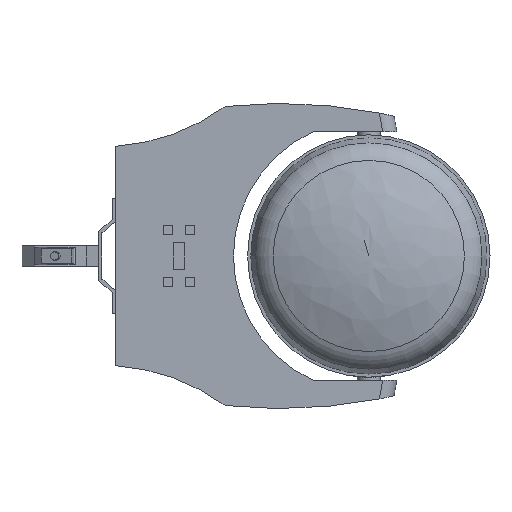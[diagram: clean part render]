
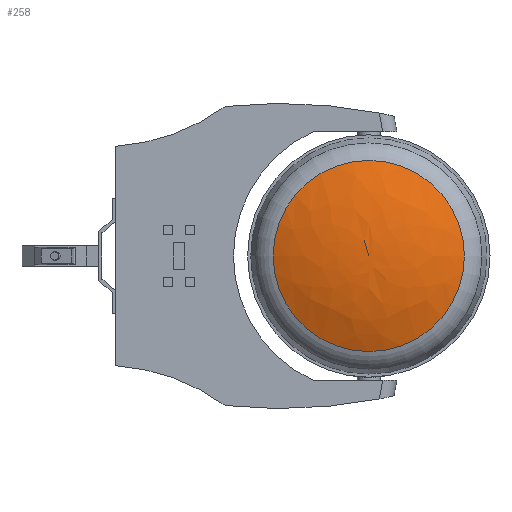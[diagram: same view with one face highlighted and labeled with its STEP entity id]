
A CAD part, front view. The second image highlights one B-rep face of the part: STEP entity #258.
In plain terms, the highlighted free-form (B-spline) face has degree [3, 3] with [4, 7] control points.
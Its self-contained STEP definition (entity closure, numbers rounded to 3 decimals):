
#258 = ADVANCED_FACE( '', ( #557, #558 ), #559, .T. );
#557 = FACE_OUTER_BOUND( '', #951, .T. );
#558 = FACE_BOUND( '', #952, .T. );
#559 = ( BOUNDED_SURFACE(  )B_SPLINE_SURFACE( 3, 3, ( ( #955, #956, #957, #958, #959, #960, #961 ), ( #962, #963, #964, #965, #966, #967, #968 ), ( #969, #970, #971, #972, #973, #974, #975 ), ( #976, #977, #978, #979, #980, #981, #982 ) ), .UNSPECIFIED., .F., .T., .F. )B_SPLINE_SURFACE_WITH_KNOTS( ( 4, 4 ), ( 4, 3, 4 ), ( 0., 6.283 ), ( -1.596, -1.386, -1.175 ), .UNSPECIFIED. )GEOMETRIC_REPRESENTATION_ITEM(  )RATIONAL_B_SPLINE_SURFACE( ( ( 1., 0.333, 0.333, 1., 0.333, 0.333, 1. ), ( 0.985, 0.328, 0.328, 0.985, 0.328, 0.328, 0.985 ), ( 0.985, 0.328, 0.328, 0.985, 0.328, 0.328, 0.985 ), ( 1., 0.333, 0.333, 1., 0.333, 0.333, 1. ) ) )REPRESENTATION_ITEM( '' )SURFACE(  ) );
#951 = EDGE_LOOP( '', ( #1440 ) );
#952 = VERTEX_LOOP( '', #1441 );
#955 = CARTESIAN_POINT( '', ( 253., 72.197, -137.709 ) );
#956 = CARTESIAN_POINT( '', ( 528.418, 72.197, -137.709 ) );
#957 = CARTESIAN_POINT( '', ( 528.418, 72.197, 137.709 ) );
#958 = CARTESIAN_POINT( '', ( 253., 72.197, 137.709 ) );
#959 = CARTESIAN_POINT( '', ( -22.418, 72.197, 137.709 ) );
#960 = CARTESIAN_POINT( '', ( -22.418, 72.197, -137.709 ) );
#961 = CARTESIAN_POINT( '', ( 253., 72.197, -137.709 ) );
#962 = CARTESIAN_POINT( '', ( 253., 90.449, -93.968 ) );
#963 = CARTESIAN_POINT( '', ( 440.936, 90.449, -93.968 ) );
#964 = CARTESIAN_POINT( '', ( 440.936, 90.449, 93.968 ) );
#965 = CARTESIAN_POINT( '', ( 253., 90.449, 93.968 ) );
#966 = CARTESIAN_POINT( '', ( 65.064, 90.449, 93.968 ) );
#967 = CARTESIAN_POINT( '', ( 65.064, 90.449, -93.968 ) );
#968 = CARTESIAN_POINT( '', ( 253., 90.449, -93.968 ) );
#969 = CARTESIAN_POINT( '', ( 253., 99.177, -47.382 ) );
#970 = CARTESIAN_POINT( '', ( 347.764, 99.177, -47.382 ) );
#971 = CARTESIAN_POINT( '', ( 347.764, 99.177, 47.382 ) );
#972 = CARTESIAN_POINT( '', ( 253., 99.177, 47.382 ) );
#973 = CARTESIAN_POINT( '', ( 158.236, 99.177, 47.382 ) );
#974 = CARTESIAN_POINT( '', ( 158.236, 99.177, -47.382 ) );
#975 = CARTESIAN_POINT( '', ( 253., 99.177, -47.382 ) );
#976 = CARTESIAN_POINT( '', ( 253., 97.997, 0. ) );
#977 = CARTESIAN_POINT( '', ( 253., 97.997, 0. ) );
#978 = CARTESIAN_POINT( '', ( 253., 97.997, 0. ) );
#979 = CARTESIAN_POINT( '', ( 253., 97.997, 0. ) );
#980 = CARTESIAN_POINT( '', ( 253., 97.997, 0. ) );
#981 = CARTESIAN_POINT( '', ( 253., 97.997, 0. ) );
#982 = CARTESIAN_POINT( '', ( 253., 97.997, 0. ) );
#1440 = ORIENTED_EDGE( '', *, *, #2302, .F. );
#1441 = VERTEX_POINT( '', #2303 );
#2302 = EDGE_CURVE( '', #2719, #2719, #2720, .T. );
#2303 = CARTESIAN_POINT( '', ( 253., 97.997, 0. ) );
#2719 = VERTEX_POINT( '', #3321 );
#2720 = CIRCLE( '', #3322, 137.709 );
#3321 = CARTESIAN_POINT( '', ( 253., 72.197, -137.709 ) );
#3322 = AXIS2_PLACEMENT_3D( '', #4082, #4083, #4084 );
#4082 = CARTESIAN_POINT( '', ( 253., 72.197, 0. ) );
#4083 = DIRECTION( '', ( 0., -1., 0. ) );
#4084 = DIRECTION( '', ( 0., 0., -1. ) );
